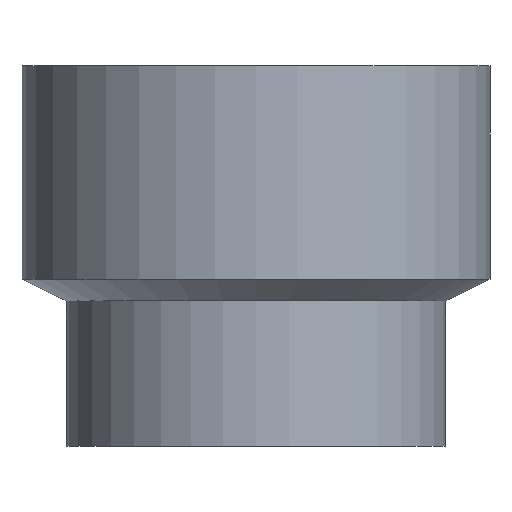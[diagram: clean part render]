
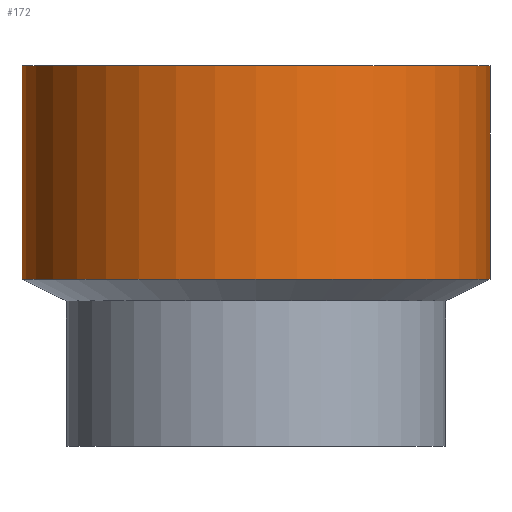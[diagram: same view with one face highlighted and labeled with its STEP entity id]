
A CAD part, front view. The second image highlights one B-rep face of the part: STEP entity #172.
In plain terms, the highlighted cylindrical face has radius 32.25 mm (diameter 64.5 mm), a partial arc.
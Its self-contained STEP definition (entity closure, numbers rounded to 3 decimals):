
#20 = AXIS2_PLACEMENT_3D ( 'NONE', #200, #120, #527 ) ;
#23 = CARTESIAN_POINT ( 'NONE',  ( -32.25, 0., 23. ) ) ;
#32 = DIRECTION ( 'NONE',  ( 0., 0., -1. ) ) ;
#36 = EDGE_CURVE ( 'NONE', #300, #335, #383, .T. ) ;
#46 = CARTESIAN_POINT ( 'NONE',  ( 32.25, 0., 52.4 ) ) ;
#48 = CARTESIAN_POINT ( 'NONE',  ( -32.25, 0., 52.4 ) ) ;
#62 = CARTESIAN_POINT ( 'NONE',  ( 32.25, 0., 23. ) ) ;
#120 = DIRECTION ( 'NONE',  ( 0., 0., -1. ) ) ;
#134 = CARTESIAN_POINT ( 'NONE',  ( -32.25, 0., 52.4 ) ) ;
#138 = ORIENTED_EDGE ( 'NONE', *, *, #307, .T. ) ;
#158 = CARTESIAN_POINT ( 'NONE',  ( 0., 0., 23. ) ) ;
#172 = ADVANCED_FACE ( 'NONE', ( #367 ), #402, .T. ) ;
#173 = DIRECTION ( 'NONE',  ( 1., 0., 0. ) ) ;
#198 = AXIS2_PLACEMENT_3D ( 'NONE', #158, #32, #516 ) ;
#200 = CARTESIAN_POINT ( 'NONE',  ( 0., 0., 52.4 ) ) ;
#202 = DIRECTION ( 'NONE',  ( 0., 0., -1. ) ) ;
#214 = DIRECTION ( 'NONE',  ( 0., 0., -1. ) ) ;
#215 = ORIENTED_EDGE ( 'NONE', *, *, #36, .F. ) ;
#222 = EDGE_CURVE ( 'NONE', #311, #300, #404, .T. ) ;
#238 = VERTEX_POINT ( 'NONE', #48 ) ;
#256 = VECTOR ( 'NONE', #214, 1000. ) ;
#300 = VERTEX_POINT ( 'NONE', #62 ) ;
#307 = EDGE_CURVE ( 'NONE', #238, #335, #382, .T. ) ;
#308 = ORIENTED_EDGE ( 'NONE', *, *, #405, .F. ) ;
#310 = VECTOR ( 'NONE', #202, 1000. ) ;
#311 = VERTEX_POINT ( 'NONE', #375 ) ;
#312 = AXIS2_PLACEMENT_3D ( 'NONE', #503, #499, #173 ) ;
#335 = VERTEX_POINT ( 'NONE', #23 ) ;
#337 = CIRCLE ( 'NONE', #312, 32.25 ) ;
#367 = FACE_OUTER_BOUND ( 'NONE', #459, .T. ) ;
#375 = CARTESIAN_POINT ( 'NONE',  ( 32.25, 0., 52.4 ) ) ;
#382 = LINE ( 'NONE', #134, #256 ) ;
#383 = CIRCLE ( 'NONE', #198, 32.25 ) ;
#384 = ORIENTED_EDGE ( 'NONE', *, *, #222, .F. ) ;
#402 = CYLINDRICAL_SURFACE ( 'NONE', #20, 32.25 ) ;
#404 = LINE ( 'NONE', #46, #310 ) ;
#405 = EDGE_CURVE ( 'NONE', #238, #311, #337, .T. ) ;
#459 = EDGE_LOOP ( 'NONE', ( #384, #308, #138, #215 ) ) ;
#499 = DIRECTION ( 'NONE',  ( 0., 0., 1. ) ) ;
#503 = CARTESIAN_POINT ( 'NONE',  ( 0., 0., 52.4 ) ) ;
#516 = DIRECTION ( 'NONE',  ( -1., 0., 0. ) ) ;
#527 = DIRECTION ( 'NONE',  ( -1., 0., 0. ) ) ;
